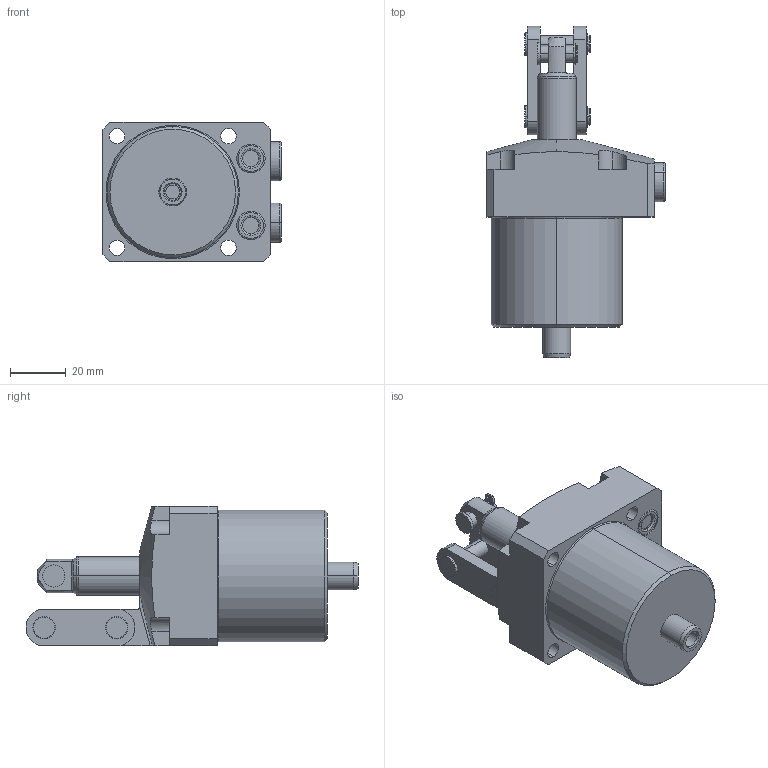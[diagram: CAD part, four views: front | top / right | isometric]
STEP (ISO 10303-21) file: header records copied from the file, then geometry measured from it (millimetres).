
FILE_DESCRIPTION(/* description */ (''),/* implementation_level */ '2;1');
FILE_NAME(/* name */ 'TPC04-RD.stp',/* time_stamp */ '2025-01-05T10:18:18+08:00',/* author */ (''),/* organization */ (''),/* preprocessor_version */ 'ST-DEVELOPER v16.7',/* originating_system */ 'SIEMENS PLM Software NX 12.0',/* authorisation */ '');
FILE_SCHEMA (('AUTOMOTIVE_DESIGN { 1 0 10303 214 3 1 1 1 }'));
Length unit declared in the file: millimetre
Products named in the file (5): TPC04-RD-04; TPC04-RD-03; TPC04-RD-02; TPC04-RD-01; TPC04-RD_stp
Assembly tree (5 placements, depth 2):
  TPC04-RD_stp
    TPC04-RD-01
    TPC04-RD-02
    TPC04-RD-03
    TPC04-RD-04  x2
Bounding box: 63.8 x 118.97 x 50 mm (x, y, z)
Volume: 148996.8 mm3; surface area: 31577.2 mm2
Topology: 5 solids, 7 shells, 302 faces, 714 edges, 454 vertices
Faces by surface type: cylinder 128, plane 114, torus 34, cone 24, extrusion 2
Entity records: 8480 total; most frequent: CARTESIAN_POINT 1617, DIRECTION 1512, ORIENTED_EDGE 1336, EDGE_CURVE 668, AXIS2_PLACEMENT_3D 605, VERTEX_POINT 426, EDGE_LOOP 328, CIRCLE 321
